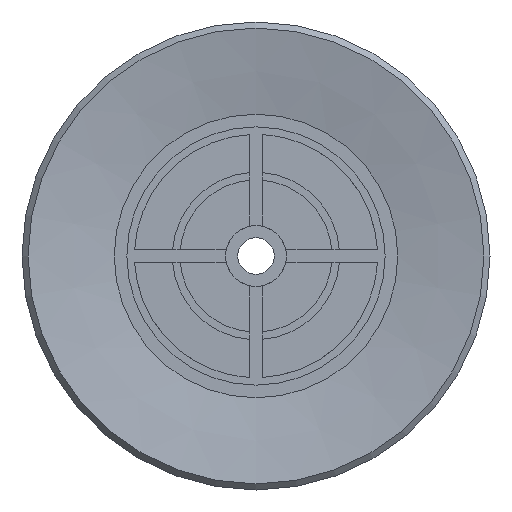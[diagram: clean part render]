
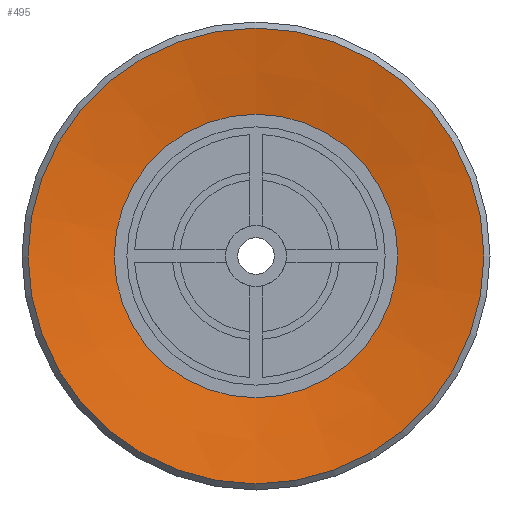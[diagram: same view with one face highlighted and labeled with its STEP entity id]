
A CAD part, front view. The second image highlights one B-rep face of the part: STEP entity #495.
In plain terms, the highlighted conical face has half-angle 80 degrees and reference radius 4.664 mm.
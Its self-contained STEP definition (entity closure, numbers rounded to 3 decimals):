
#495=ADVANCED_FACE('',(#986,#987),#988,.F.);
#986=FACE_BOUND('',#1574,.T.);
#987=FACE_OUTER_BOUND('',#1575,.T.);
#988=CONICAL_SURFACE('',#1576,4.664,1.396);
#1574=EDGE_LOOP('',(#2278));
#1575=EDGE_LOOP('',(#2279));
#1576=AXIS2_PLACEMENT_3D('',#2280,#2281,#2282);
#2278=ORIENTED_EDGE('',*,*,#2676,.F.);
#2279=ORIENTED_EDGE('',*,*,#2609,.T.);
#2280=CARTESIAN_POINT('',(0.0,0.5,0.0));
#2281=DIRECTION('',(-0.0,-1.0,0.));
#2282=DIRECTION('',(0.0,0.,-1.0));
#2609=EDGE_CURVE('',#2871,#2871,#2872,.T.);
#2676=EDGE_CURVE('',#2969,#2969,#2970,.T.);
#2871=VERTEX_POINT('',#3217);
#2872=CIRCLE('',#3218,7.5);
#2969=VERTEX_POINT('',#3397);
#2970=CIRCLE('',#3398,4.664);
#3217=CARTESIAN_POINT('',(0.0,0.,-7.5));
#3218=AXIS2_PLACEMENT_3D('',#3569,#3570,#3571);
#3397=CARTESIAN_POINT('',(0.0,0.5,-4.664));
#3398=AXIS2_PLACEMENT_3D('',#3636,#3637,#3638);
#3569=CARTESIAN_POINT('',(0.0,0.0,0.0));
#3570=DIRECTION('',(0.0,-1.0,0.));
#3571=DIRECTION('',(0.0,0.,-1.0));
#3636=CARTESIAN_POINT('',(0.0,0.5,0.0));
#3637=DIRECTION('',(0.0,-1.0,0.));
#3638=DIRECTION('',(0.0,0.,-1.0));
